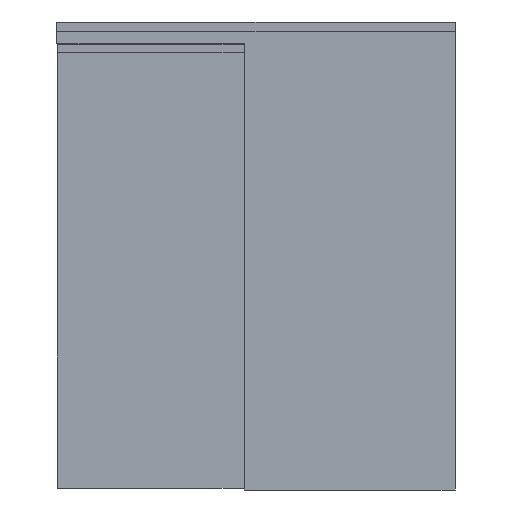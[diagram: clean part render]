
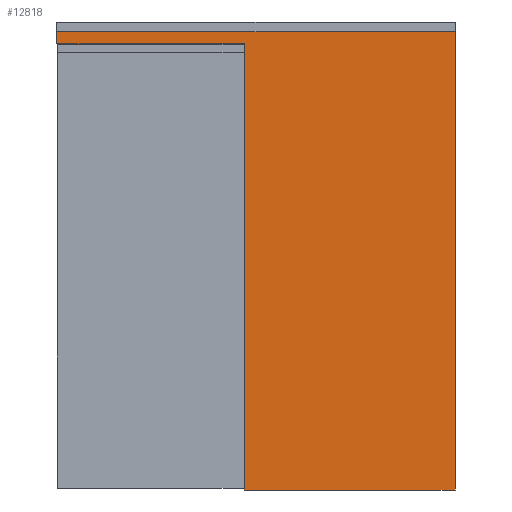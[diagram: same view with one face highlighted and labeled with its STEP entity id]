
A CAD part, front view. The second image highlights one B-rep face of the part: STEP entity #12818.
In plain terms, the highlighted planar face has unit normal (0, -1, 0).
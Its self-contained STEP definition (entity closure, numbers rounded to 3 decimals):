
#12818=ADVANCED_FACE('',(#21874),#21875,.F.);
#21874=FACE_OUTER_BOUND('',#35224,.T.);
#21875=PLANE('',#35225);
#35224=EDGE_LOOP('',(#41488,#41489,#41490,#41491,#41492,#41493));
#35225=AXIS2_PLACEMENT_3D('',#41494,#41495,#41496);
#41488=ORIENTED_EDGE('',*,*,#51995,.T.);
#41489=ORIENTED_EDGE('',*,*,#51985,.F.);
#41490=ORIENTED_EDGE('',*,*,#51989,.F.);
#41491=ORIENTED_EDGE('',*,*,#51993,.T.);
#41492=ORIENTED_EDGE('',*,*,#51996,.F.);
#41493=ORIENTED_EDGE('',*,*,#51997,.F.);
#41494=CARTESIAN_POINT('',(0.0,-46.5,2333.0));
#41495=DIRECTION('',(0.0,1.0,-0.0));
#41496=DIRECTION('',(0.0,0.0,1.0));
#51985=EDGE_CURVE('',#58947,#58942,#58949,.T.);
#51989=EDGE_CURVE('',#58953,#58947,#58955,.T.);
#51993=EDGE_CURVE('',#58953,#58959,#58961,.T.);
#51995=EDGE_CURVE('',#58963,#58942,#58964,.T.);
#51996=EDGE_CURVE('',#58965,#58959,#58966,.T.);
#51997=EDGE_CURVE('',#58963,#58965,#58967,.T.);
#58942=VERTEX_POINT('',#61532);
#58947=VERTEX_POINT('',#61539);
#58949=LINE('',#61542,#61543);
#58953=VERTEX_POINT('',#61548);
#58955=LINE('',#61551,#61552);
#58959=VERTEX_POINT('',#61557);
#58961=LINE('',#61560,#61561);
#58963=VERTEX_POINT('',#61563);
#58964=LINE('',#61564,#61565);
#58965=VERTEX_POINT('',#61566);
#58966=LINE('',#61567,#61568);
#58967=LINE('',#61569,#61570);
#61532=CARTESIAN_POINT('',(965.0,-46.5,2298.5));
#61539=CARTESIAN_POINT('',(965.0,-46.5,0.0));
#61542=CARTESIAN_POINT('',(965.0,-46.5,7.0));
#61543=VECTOR('',#64148,1.0);
#61548=CARTESIAN_POINT('',(2050.0,-46.5,0.0));
#61551=CARTESIAN_POINT('',(1327.5,-46.5,0.0));
#61552=VECTOR('',#64151,1.0);
#61557=CARTESIAN_POINT('',(2050.0,-46.5,2360.0));
#61560=CARTESIAN_POINT('',(2050.0,-46.5,7.0));
#61561=VECTOR('',#64154,1.0);
#61563=CARTESIAN_POINT('',(0.0,-46.5,2298.5));
#61564=CARTESIAN_POINT('',(0.0,-46.5,2298.5));
#61565=VECTOR('',#64155,1.0);
#61566=CARTESIAN_POINT('',(0.0,-46.5,2360.0));
#61567=CARTESIAN_POINT('',(1270.0,-46.5,2360.0));
#61568=VECTOR('',#64156,1.0);
#61569=CARTESIAN_POINT('',(0.0,-46.5,2301.0));
#61570=VECTOR('',#64157,1.0);
#64148=DIRECTION('',(0.0,0.0,1.0));
#64151=DIRECTION('',(-1.0,0.0,0.0));
#64154=DIRECTION('',(0.0,0.0,1.0));
#64155=DIRECTION('',(1.0,0.0,0.0));
#64156=DIRECTION('',(1.0,0.0,0.0));
#64157=DIRECTION('',(0.0,0.0,1.0));
